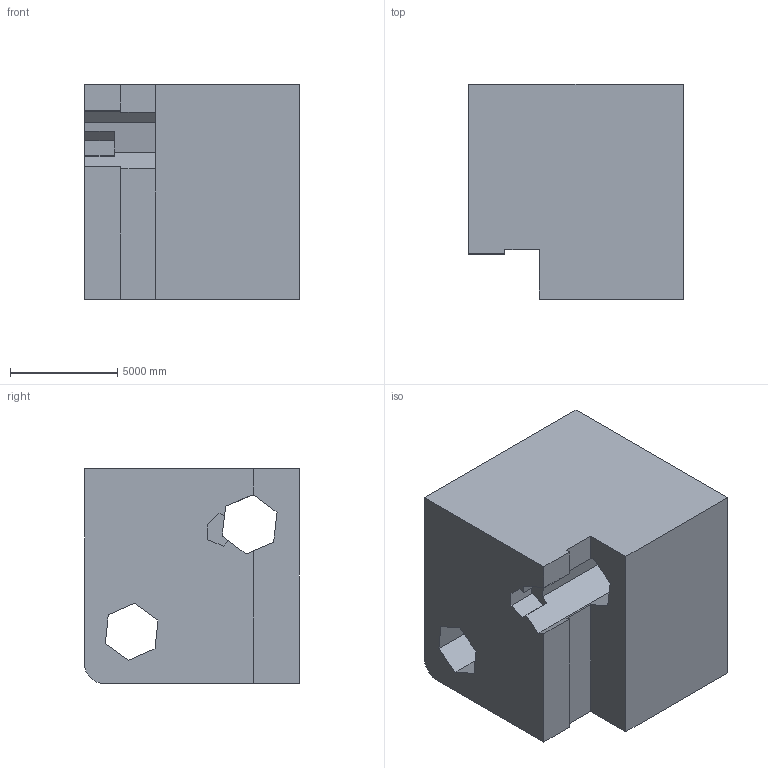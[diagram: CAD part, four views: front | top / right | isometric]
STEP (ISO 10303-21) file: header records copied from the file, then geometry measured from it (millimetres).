
FILE_DESCRIPTION (( 'STEP AP203' ), '1' );
FILE_NAME ('55.STEP', '2022-08-30T14:13:59', ( 'user' ), ( '' ), 'SwSTEP 2.0', 'SolidWorks 2021', '' );
FILE_SCHEMA (( 'CONFIG_CONTROL_DESIGN' ));
Length unit declared in the file: centimetre
Products named in the file (1): 55
Bounding box: 10000 x 10000 x 10000 mm (x, y, z)
Volume: 834308703427.9 mm3; surface area: 709570121.9 mm2
Topology: 1 solids, 1 shells, 33 faces, 96 edges, 64 vertices
Faces by surface type: plane 32, cylinder 1
Entity records: 1157 total; most frequent: CARTESIAN_POINT 194, ORIENTED_EDGE 192, DIRECTION 166, EDGE_CURVE 96, LINE 94, VECTOR 94, VERTEX_POINT 64, AXIS2_PLACEMENT_3D 36
